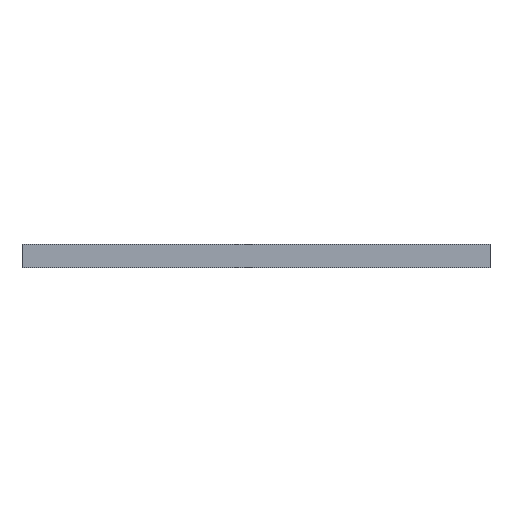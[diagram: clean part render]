
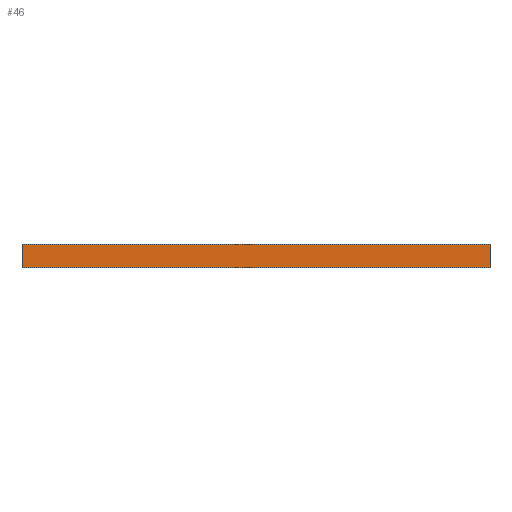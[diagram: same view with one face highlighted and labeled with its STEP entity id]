
A CAD part, front view. The second image highlights one B-rep face of the part: STEP entity #46.
In plain terms, the highlighted planar face has unit normal (0, -1, 0).
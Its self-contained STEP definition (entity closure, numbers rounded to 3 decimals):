
#46=ADVANCED_FACE('',(#58),#362,.T.);
#58=FACE_OUTER_BOUND('',#70,.T.);
#70=EDGE_LOOP('',(#115,#116,#117,#118));
#115=ORIENTED_EDGE('',*,*,#262,.F.);
#116=ORIENTED_EDGE('',*,*,#258,.F.);
#117=ORIENTED_EDGE('',*,*,#255,.F.);
#118=ORIENTED_EDGE('',*,*,#254,.F.);
#146=PCURVE('',#357,#194);
#148=PCURVE('',#358,#196);
#151=PCURVE('',#359,#199);
#162=PCURVE('',#361,#210);
#163=PCURVE('',#362,#211);
#164=PCURVE('',#362,#212);
#165=PCURVE('',#362,#213);
#166=PCURVE('',#362,#214);
#194=DEFINITIONAL_REPRESENTATION('',(#306),#586);
#196=DEFINITIONAL_REPRESENTATION('',(#309),#586);
#199=DEFINITIONAL_REPRESENTATION('',(#315),#586);
#210=DEFINITIONAL_REPRESENTATION('',(#330),#586);
#211=DEFINITIONAL_REPRESENTATION('',(#331),#586);
#212=DEFINITIONAL_REPRESENTATION('',(#332),#586);
#213=DEFINITIONAL_REPRESENTATION('',(#333),#586);
#214=DEFINITIONAL_REPRESENTATION('',(#334),#586);
#230=SURFACE_CURVE('',#305,(#146,#166),.PCURVE_S1.);
#231=SURFACE_CURVE('',#308,(#148,#165),.PCURVE_S1.);
#234=SURFACE_CURVE('',#314,(#151,#164),.PCURVE_S1.);
#238=SURFACE_CURVE('',#329,(#162,#163),.PCURVE_S1.);
#254=EDGE_CURVE('',#347,#343,#230,.T.);
#255=EDGE_CURVE('',#343,#344,#231,.T.);
#258=EDGE_CURVE('',#344,#350,#234,.T.);
#262=EDGE_CURVE('',#350,#347,#238,.T.);
#305=B_SPLINE_CURVE_WITH_KNOTS('',1,(#525,#526),.UNSPECIFIED.,.F.,.F.,(2,
2),(-1600.,0.),.UNSPECIFIED.);
#306=B_SPLINE_CURVE_WITH_KNOTS('',1,(#527,#528),.UNSPECIFIED.,.F.,.F.,(2,
2),(-1600.,0.),.UNSPECIFIED.);
#308=B_SPLINE_CURVE_WITH_KNOTS('',1,(#531,#532),.UNSPECIFIED.,.F.,.F.,(2,
2),(0.,80.),.UNSPECIFIED.);
#309=B_SPLINE_CURVE_WITH_KNOTS('',1,(#533,#534),.UNSPECIFIED.,.F.,.F.,(2,
2),(0.,80.),.UNSPECIFIED.);
#314=B_SPLINE_CURVE_WITH_KNOTS('',1,(#543,#544),.UNSPECIFIED.,.F.,.F.,(2,
2),(0.,1600.),.UNSPECIFIED.);
#315=B_SPLINE_CURVE_WITH_KNOTS('',1,(#545,#546),.UNSPECIFIED.,.F.,.F.,(2,
2),(0.,1600.),.UNSPECIFIED.);
#329=B_SPLINE_CURVE_WITH_KNOTS('',1,(#573,#574),.UNSPECIFIED.,.F.,.F.,(2,
2),(-80.,0.),.UNSPECIFIED.);
#330=B_SPLINE_CURVE_WITH_KNOTS('',1,(#575,#576),.UNSPECIFIED.,.F.,.F.,(2,
2),(-80.,0.),.UNSPECIFIED.);
#331=B_SPLINE_CURVE_WITH_KNOTS('',1,(#577,#578),.UNSPECIFIED.,.F.,.F.,(2,
2),(-80.,0.),.UNSPECIFIED.);
#332=B_SPLINE_CURVE_WITH_KNOTS('',1,(#579,#580),.UNSPECIFIED.,.F.,.F.,(2,
2),(0.,1600.),.UNSPECIFIED.);
#333=B_SPLINE_CURVE_WITH_KNOTS('',1,(#581,#582),.UNSPECIFIED.,.F.,.F.,(2,
2),(0.,80.),.UNSPECIFIED.);
#334=B_SPLINE_CURVE_WITH_KNOTS('',1,(#583,#584),.UNSPECIFIED.,.F.,.F.,(2,
2),(-1600.,0.),.UNSPECIFIED.);
#343=VERTEX_POINT('',#505);
#344=VERTEX_POINT('',#506);
#347=VERTEX_POINT('',#509);
#350=VERTEX_POINT('',#512);
#357=PLANE('',#389);
#358=PLANE('',#390);
#359=PLANE('',#391);
#361=PLANE('',#393);
#362=PLANE('',#394);
#389=AXIS2_PLACEMENT_3D('',#499,#404,$);
#390=AXIS2_PLACEMENT_3D('',#500,#405,$);
#391=AXIS2_PLACEMENT_3D('',#501,#406,$);
#393=AXIS2_PLACEMENT_3D('',#503,#408,$);
#394=AXIS2_PLACEMENT_3D('',#504,#409,$);
#404=DIRECTION('',(0.,0.,-1.));
#405=DIRECTION('',(-1.,0.,0.));
#406=DIRECTION('',(0.,0.,1.));
#408=DIRECTION('',(1.,0.,0.));
#409=DIRECTION('',(0.,-1.,0.));
#499=CARTESIAN_POINT('',(-810.,-585.,-40.));
#500=CARTESIAN_POINT('',(-810.,-585.,-40.));
#501=CARTESIAN_POINT('',(-810.,-585.,40.));
#503=CARTESIAN_POINT('',(810.,-545.,-40.));
#504=CARTESIAN_POINT('',(810.,-585.,-40.));
#505=CARTESIAN_POINT('',(-810.,-585.,-40.));
#506=CARTESIAN_POINT('',(-810.,-585.,40.));
#509=CARTESIAN_POINT('',(810.,-585.,-40.));
#512=CARTESIAN_POINT('',(810.,-585.,40.));
#525=CARTESIAN_POINT('',(810.,-585.,-40.));
#526=CARTESIAN_POINT('',(-810.,-585.,-40.));
#527=CARTESIAN_POINT('',(0.,1600.));
#528=CARTESIAN_POINT('',(0.,0.));
#531=CARTESIAN_POINT('',(-810.,-585.,-40.));
#532=CARTESIAN_POINT('',(-810.,-585.,40.));
#533=CARTESIAN_POINT('',(0.,-3280.));
#534=CARTESIAN_POINT('',(80.,-3280.));
#543=CARTESIAN_POINT('',(-810.,-585.,40.));
#544=CARTESIAN_POINT('',(810.,-585.,40.));
#545=CARTESIAN_POINT('',(0.,0.));
#546=CARTESIAN_POINT('',(1600.,0.));
#573=CARTESIAN_POINT('',(810.,-585.,40.));
#574=CARTESIAN_POINT('',(810.,-585.,-40.));
#575=CARTESIAN_POINT('',(80.,-1600.));
#576=CARTESIAN_POINT('',(0.,-1600.));
#577=CARTESIAN_POINT('',(80.,-1600.));
#578=CARTESIAN_POINT('',(0.,-1600.));
#579=CARTESIAN_POINT('',(80.,0.));
#580=CARTESIAN_POINT('',(80.,-1600.));
#581=CARTESIAN_POINT('',(0.,0.));
#582=CARTESIAN_POINT('',(80.,0.));
#583=CARTESIAN_POINT('',(0.,-1600.));
#584=CARTESIAN_POINT('',(0.,0.));
#586=(
GEOMETRIC_REPRESENTATION_CONTEXT(2)
PARAMETRIC_REPRESENTATION_CONTEXT()
REPRESENTATION_CONTEXT('pspace','')
);
